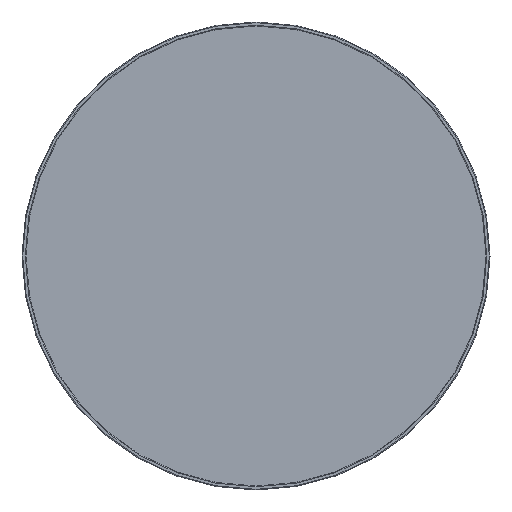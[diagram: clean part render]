
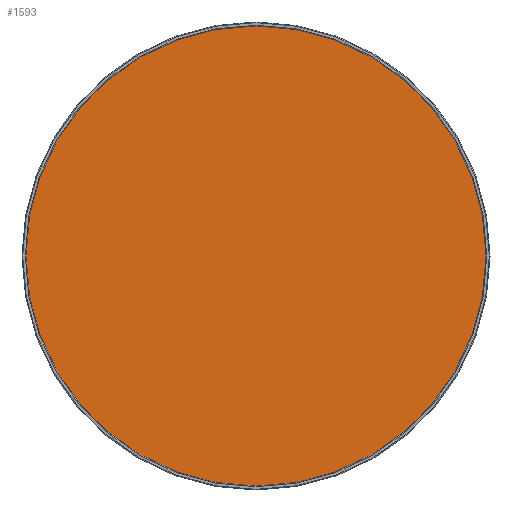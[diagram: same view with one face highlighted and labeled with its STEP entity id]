
A CAD part, front view. The second image highlights one B-rep face of the part: STEP entity #1593.
In plain terms, the highlighted planar face has unit normal (0, -1, 0).
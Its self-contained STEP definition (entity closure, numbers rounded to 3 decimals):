
#397=ORIENTED_EDGE('',*,*,#839,.F.);
#839=EDGE_CURVE('',#1065,#1065,#1219,.T.);
#1065=VERTEX_POINT('',#2375);
#1219=CIRCLE('',#1724,350.);
#1303=EDGE_LOOP('',(#397));
#1429=FACE_BOUND('',#1303,.T.);
#1540=PLANE('',#1726);
#1593=ADVANCED_FACE('',(#1429),#1540,.F.);
#1724=AXIS2_PLACEMENT_3D('',#2374,#1907,#1908);
#1726=AXIS2_PLACEMENT_3D('',#2377,#1911,#1912);
#1907=DIRECTION('',(0.,1.,0.));
#1908=DIRECTION('',(1.,0.,0.));
#1911=DIRECTION('',(0.,1.,0.));
#1912=DIRECTION('',(0.,0.,1.));
#2374=CARTESIAN_POINT('',(199.427,0.,72.079));
#2375=CARTESIAN_POINT('',(549.427,0.,72.079));
#2377=CARTESIAN_POINT('',(199.427,0.,72.079));
